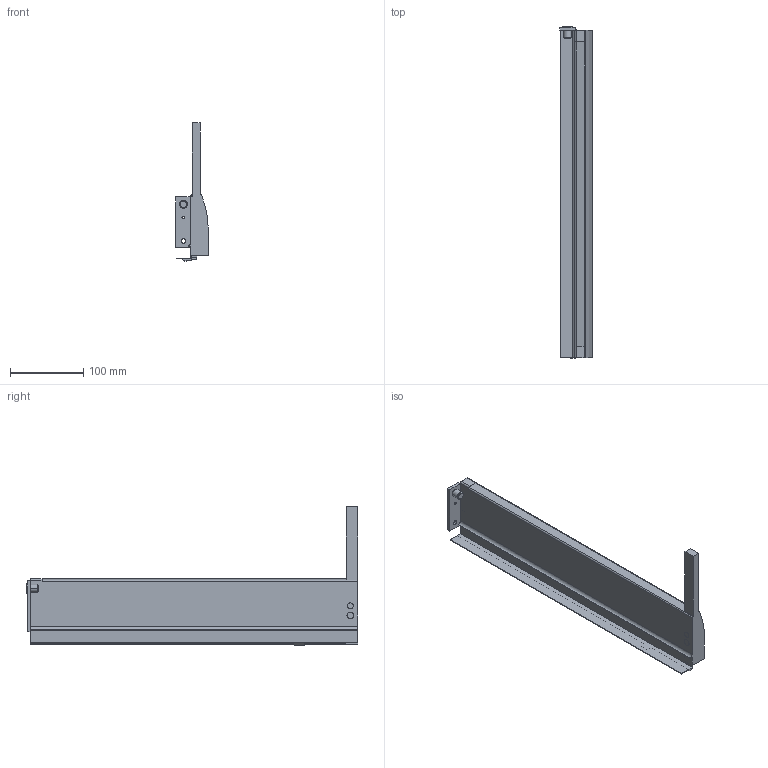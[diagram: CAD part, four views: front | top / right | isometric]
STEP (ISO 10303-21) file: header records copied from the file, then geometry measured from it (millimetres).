
FILE_DESCRIPTION (( 'STEP AP214' ), '1' );
FILE_NAME ('_IMOS_NOVA-Pro_Crystal_Dekor-H90_DL_NL450_RE.step', '2010-07-14T12:43:08', ( 'grass' ), ( '' ), 'SwSTEP 2.0', 'SolidWorks 2009', '' );
FILE_SCHEMA (( 'AUTOMOTIVE_DESIGN' ));
Length unit declared in the file: millimetre
Products named in the file (1): _IMOS_NOVA-Pro_Crystal_Dekor-H90_DL_NL450_RE
Bounding box: 44.3 x 452.7 x 188.49 mm (x, y, z)
Volume: 508841.3 mm3; surface area: 160466.3 mm2
Topology: 1 solids, 1 shells, 87 faces, 235 edges, 155 vertices
Faces by surface type: plane 55, cylinder 27, cone 4, bspline 1
Entity records: 2781 total; most frequent: CARTESIAN_POINT 499, ORIENTED_EDGE 470, DIRECTION 466, EDGE_CURVE 235, VECTOR 174, LINE 174, VERTEX_POINT 155, AXIS2_PLACEMENT_3D 146
